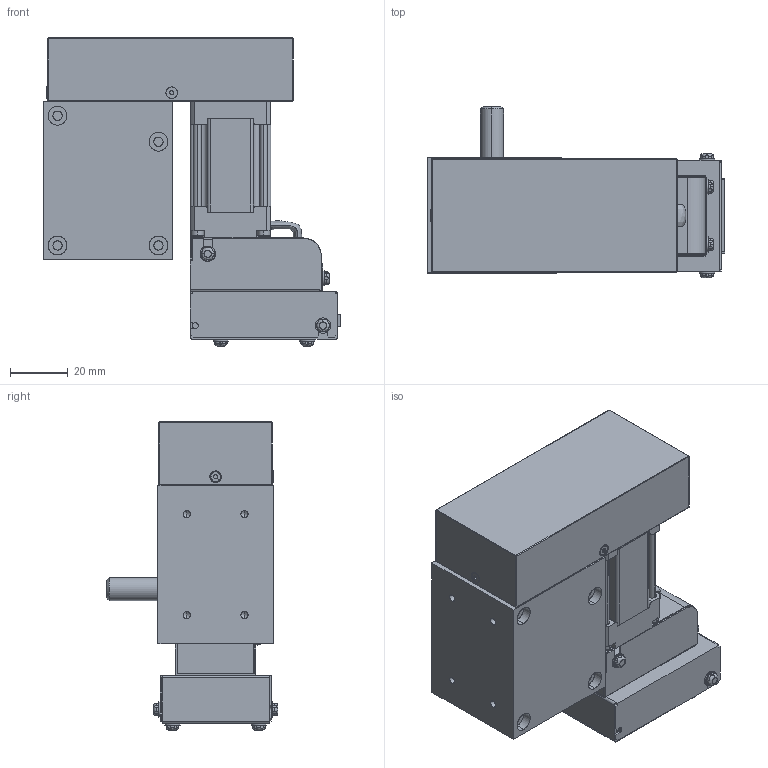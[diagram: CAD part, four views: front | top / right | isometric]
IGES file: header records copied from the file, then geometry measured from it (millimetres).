
Start section: SolidWorks IGES file using analytic representation for surfaces
Global section: file name: \\MYODRIVE\Public\CAD Files\Gearboxes\KyouikuGearMFG\HY-BOXES\HY70R-005\HY070-CM1-11L30-REV1.5.IGS; native system: SolidWorks 2011; preprocessor: SolidWorks 2011; author: render; date: 120718.093539; units: millimetre
Bounding box: 103.3 x 59.6 x 106.9 mm (x, y, z)
Surface area: 78523.7 mm2 (no closed solid volume)
Topology: 0 solids, 0 shells, 1418 faces, 18298 edges, 18268 vertices
Faces by surface type: bspline 738, revolution 680
